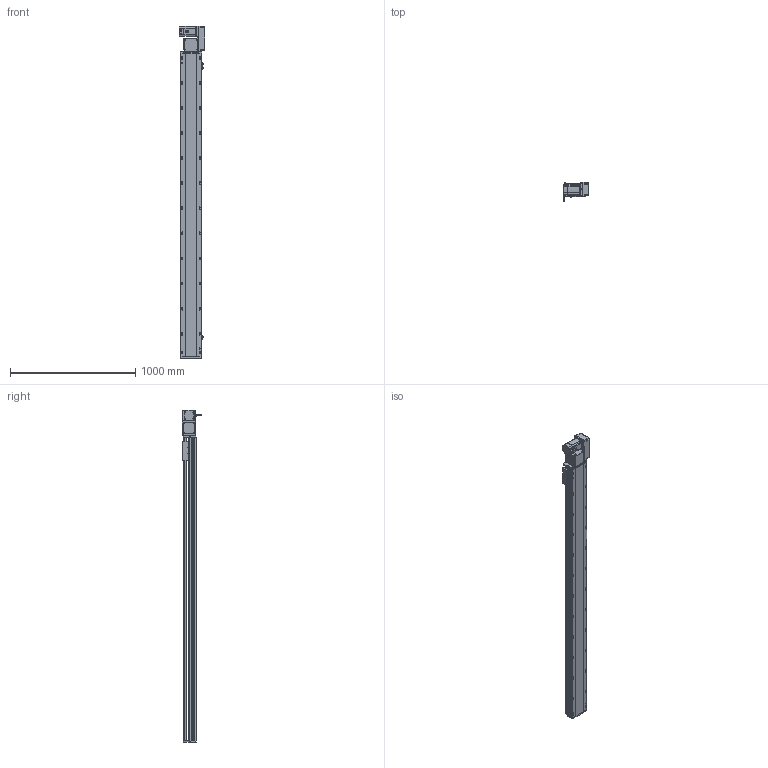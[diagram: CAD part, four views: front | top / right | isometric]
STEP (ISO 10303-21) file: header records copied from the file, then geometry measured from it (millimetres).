
FILE_DESCRIPTION (( 'STEP AP214' ), '1' );
FILE_NAME ('RTB17S-XX-2150-R-M75-C4.STEP', '2025-12-12T01:45:13', ( '' ), ( '' ), 'SwSTEP 2.0', 'SolidWorks 2018', '' );
FILE_SCHEMA (( 'AUTOMOTIVE_DESIGN' ));
Length unit declared in the file: millimetre
Products named in the file (15): RTB17S-L-014-T20-P75--々湍釱^RTB17S-R-々湍釱蚾饜-750W_RTB17S-XX-XX-R-M75-C4; RTB22S-GY-017P^RTB17S-R-々湍釱蚾饜-750W_RTB17S-XX-XX-R-M75-C4; RTB22S-GY-005P^RTB17S-R-々湍釱蚾饜-750W_RTB17S-XX-XX-R-M75-C4; RTB17S-賑釱^RTB17S-XX-XX-R-M75-C4; RTB17S-L-001-耜醱啣^RTB17S-XX-XX-R-M75-C4; RTB22S-GY-018P^RTB17S-R-々湍釱蚾饜-750W_RTB17S-XX-XX-R-M75-C4; 750W萇儂^RTB17S-XX-XX-R-M75-C4; RTB22S-GY-008-M75--萇儂啣^RTB17S-R-々湍釱蚾饜-750W_RTB17S-XX-XX-R-M75-C4; RTB17S-R-々湍釱蚾饜-750W^RTB17S-XX-XX-R-M75-C4; RTB17S-L-007奻裔^RTB17S-XX-XX-R-M75-C4; EE672^RTB17S-XX-XX-R-M75-C4; RTH13-BL-012覜茼え俋离^RTB17S-賑釱_RTB17S-XX-XX-R-M75-C4; RTB17-R-011菁釱^RTB17S-XX-XX-R-M75-C4; RTB17S-L-004-賑釱^RTB17S-賑釱_RTB17S-XX-XX-R-M75-C4; RTB17S-XX-2150-R-M75-C4
Assembly tree (17 placements, depth 3):
  RTB17S-XX-2150-R-M75-C4
    RTB17-R-011菁釱^RTB17S-XX-XX-R-M75-C4
    EE672^RTB17S-XX-XX-R-M75-C4  x3
    RTB17S-L-001-耜醱啣^RTB17S-XX-XX-R-M75-C4
    RTB17S-賑釱^RTB17S-XX-XX-R-M75-C4
      RTB17S-L-004-賑釱^RTB17S-賑釱_RTB17S-XX-XX-R-M75-C4
      RTH13-BL-012覜茼え俋离^RTB17S-賑釱_RTB17S-XX-XX-R-M75-C4
    RTB17S-L-007奻裔^RTB17S-XX-XX-R-M75-C4
    750W萇儂^RTB17S-XX-XX-R-M75-C4
    RTB17S-R-々湍釱蚾饜-750W^RTB17S-XX-XX-R-M75-C4
      RTB17S-L-014-T20-P75--々湍釱^RTB17S-R-々湍釱蚾饜-750W_RTB17S-XX-XX-R-M75-C4
      RTB22S-GY-005P^RTB17S-R-々湍釱蚾饜-750W_RTB17S-XX-XX-R-M75-C4
      RTB22S-GY-017P^RTB17S-R-々湍釱蚾饜-750W_RTB17S-XX-XX-R-M75-C4  x2
      RTB22S-GY-008-M75--萇儂啣^RTB17S-R-々湍釱蚾饜-750W_RTB17S-XX-XX-R-M75-C4
      RTB22S-GY-018P^RTB17S-R-々湍釱蚾饜-750W_RTB17S-XX-XX-R-M75-C4
Bounding box: 207.4 x 152.7 x 2649 mm (x, y, z)
Volume: 19389971.8 mm3; surface area: 3483497.7 mm2
Topology: 17 solids, 17 shells, 2185 faces, 6106 edges, 3950 vertices
Faces by surface type: plane 982, cylinder 787, bspline 294, cone 110, sphere 8, torus 4
Entity records: 62710 total; most frequent: CARTESIAN_POINT 18570, ORIENTED_EDGE 9056, DIRECTION 8402, EDGE_CURVE 4528, AXIS2_PLACEMENT_3D 2970, VERTEX_POINT 2954, LINE 2462, VECTOR 2462
